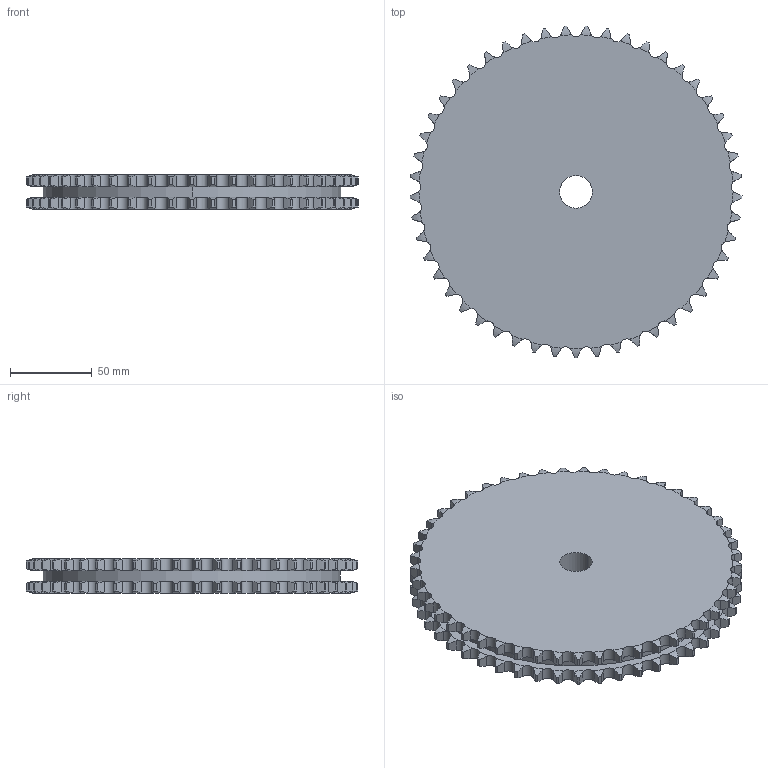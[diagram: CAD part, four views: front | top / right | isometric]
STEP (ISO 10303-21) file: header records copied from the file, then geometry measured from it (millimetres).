
FILE_DESCRIPTION((''),'2;1');
FILE_NAME('500-202-0049_PRT','2021-02-12T',('Brieden'),('Brieden'),'PRO/ENGINEER BY PARAMETRIC TECHNOLOGY CORPORATION, 2010160','PRO/ENGINEER BY PARAMETRIC TECHNOLOGY CORPORATION, 2010160','');
FILE_SCHEMA(('AUTOMOTIVE_DESIGN { 1 0 10303 214 1 1 1 1 }'));
Length unit declared in the file: millimetre
Products named in the file (1): 500-202-0049_PRT
Bounding box: 203.52 x 203.42 x 21 mm (x, y, z)
Volume: 596857.8 mm3; surface area: 85224.9 mm2
Topology: 1 solids, 1 shells, 596 faces, 1776 edges, 1184 vertices
Faces by surface type: cylinder 396, torus 196, plane 4
Entity records: 29004 total; most frequent: CARTESIAN_POINT 8553, ORIENTED_EDGE 3552, DIRECTION 2780, PRESENTATION_STYLE_ASSIGNMENT 1777, STYLED_ITEM 1777, CURVE_STYLE 1776, EDGE_CURVE 1776, AXIS2_PLACEMENT_3D 1192
